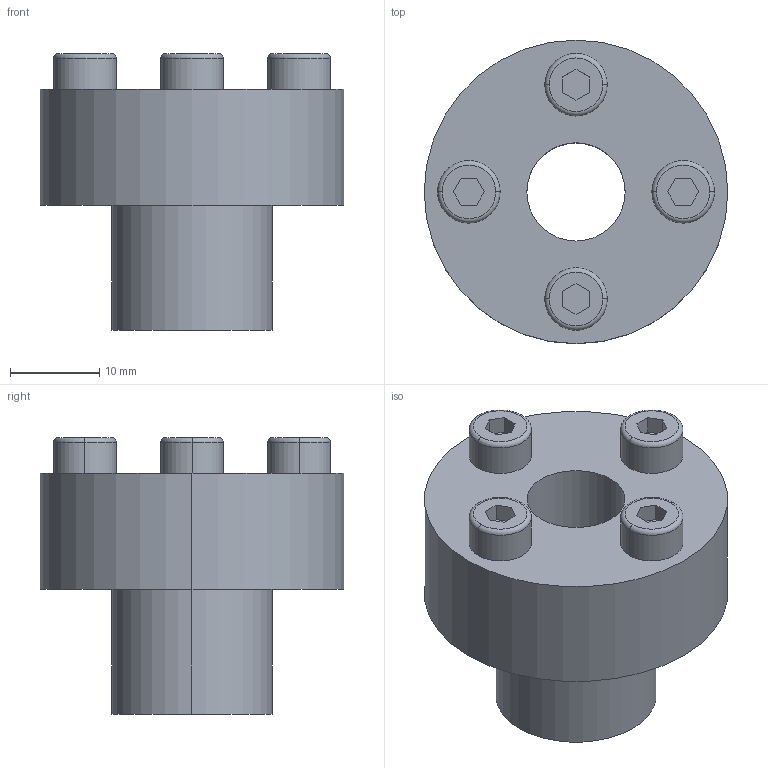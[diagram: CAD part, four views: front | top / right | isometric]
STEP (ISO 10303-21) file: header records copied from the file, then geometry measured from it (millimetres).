
FILE_DESCRIPTION (( 'STEP AP203' ), '1' );
FILE_NAME ('PL-C 11-18.STEP', '2021-10-22T08:24:40', ( '' ), ( '' ), 'SwSTEP 2.0', 'SolidWorks 2018', '' );
FILE_SCHEMA (( 'CONFIG_CONTROL_DESIGN' ));
Length unit declared in the file: millimetre
Products named in the file (1): PL-C 11-18
Bounding box: 34 x 34 x 31 mm (x, y, z)
Volume: 13324.8 mm3; surface area: 5152.1 mm2
Topology: 1 solids, 1 shells, 57 faces, 130 edges, 84 vertices
Faces by surface type: plane 35, cylinder 14, torus 8
Entity records: 1685 total; most frequent: DIRECTION 290, CARTESIAN_POINT 272, ORIENTED_EDGE 260, EDGE_CURVE 130, AXIS2_PLACEMENT_3D 102, VECTOR 86, LINE 86, VERTEX_POINT 84
